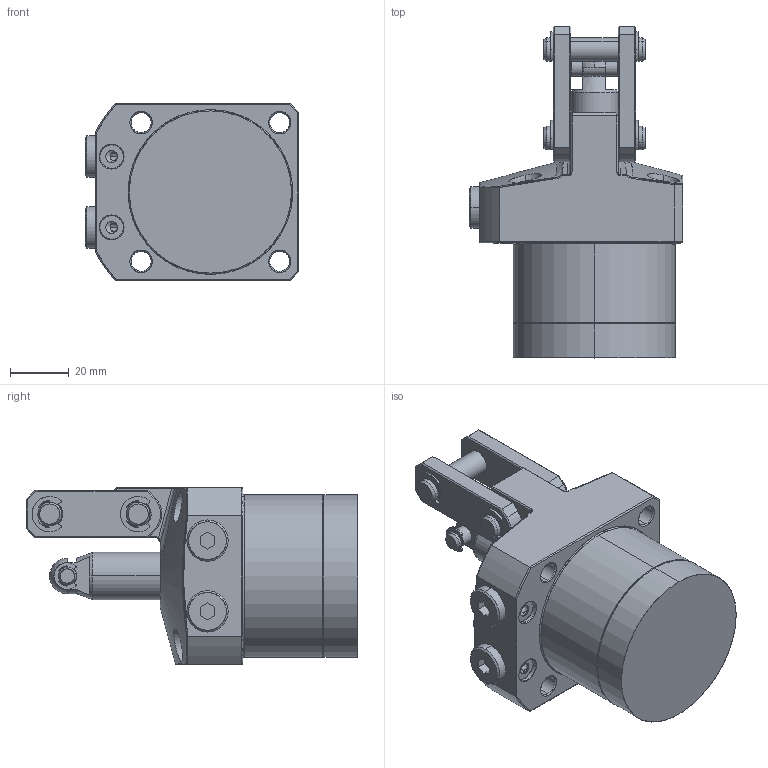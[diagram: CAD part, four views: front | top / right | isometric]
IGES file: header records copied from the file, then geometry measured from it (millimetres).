
Start section: SolidWorks IGES file using analytic representation for surfaces
Global section: file name: D:\abhilash\nijil\cylinder\LKA Series\con v lka\lka550\lk55cr\55CR PT\04020552.IGS; native system: SolidWorks 2010; preprocessor: SolidWorks 2010; author: nidheesh; date: 130730.102726; units: millimetre
Bounding box: 72.5 x 112.5 x 60 mm (x, y, z)
Surface area: 34461.1 mm2 (no closed solid volume)
Topology: 0 solids, 0 shells, 409 faces, 5185 edges, 5184 vertices
Faces by surface type: bspline 214, revolution 195
